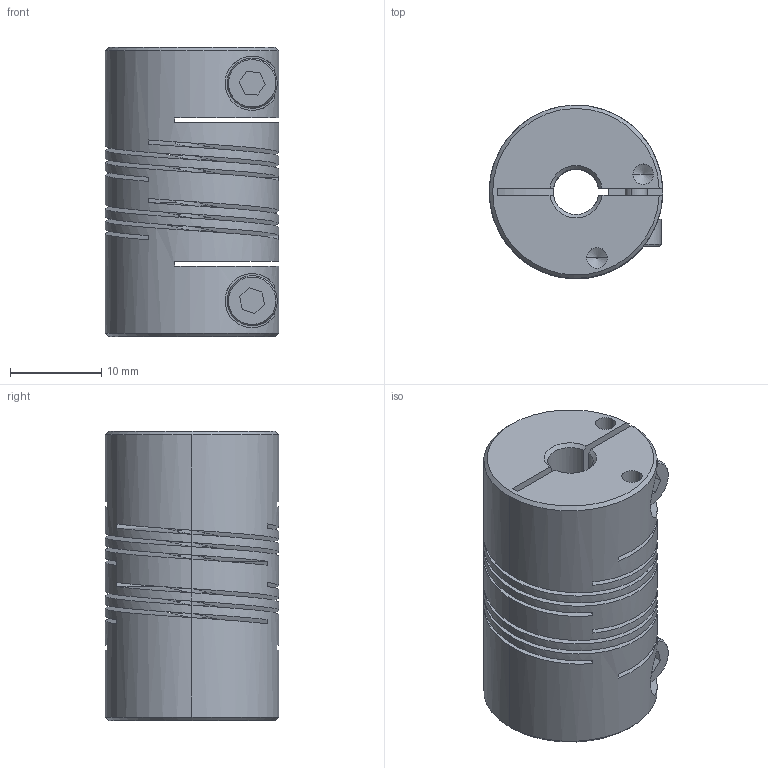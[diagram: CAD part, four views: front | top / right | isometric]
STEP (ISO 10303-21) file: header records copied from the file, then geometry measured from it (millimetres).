
FILE_DESCRIPTION((''),'2;1');
FILE_NAME('FCMR19-5-5-A','2016-09-08T',('SYSTEM'),(''),'PRO/ENGINEER BY PARAMETRIC TECHNOLOGY CORPORATION, 2015110','PRO/ENGINEER BY PARAMETRIC TECHNOLOGY CORPORATION, 2015110','');
FILE_SCHEMA(('AUTOMOTIVE_DESIGN { 1 0 10303 214 1 1 1 1 }'));
Length unit declared in the file: inch
Products named in the file (1): FCMR19-5-5-A
Bounding box: 19.05 x 19.05 x 31.75 mm (x, y, z)
Volume: 6983.6 mm3; surface area: 7003.5 mm2
Topology: 1 solids, 1 shells, 142 faces, 413 edges, 271 vertices
Faces by surface type: plane 60, cylinder 50, cone 20, bspline 12
Entity records: 7955 total; most frequent: CARTESIAN_POINT 3218, ORIENTED_EDGE 826, DIRECTION 700, EDGE_CURVE 413, VERTEX_POINT 271, AXIS2_PLACEMENT_3D 250, VECTOR 200, LINE 200
